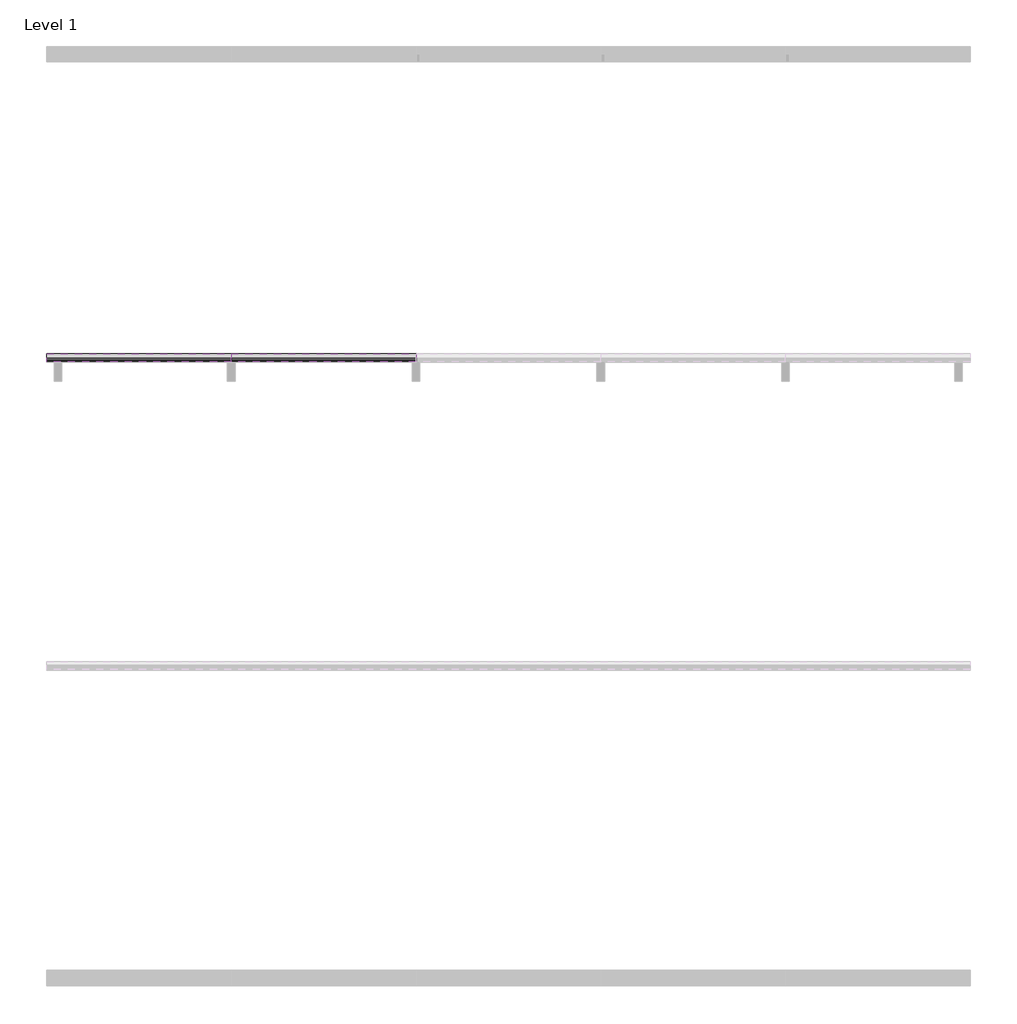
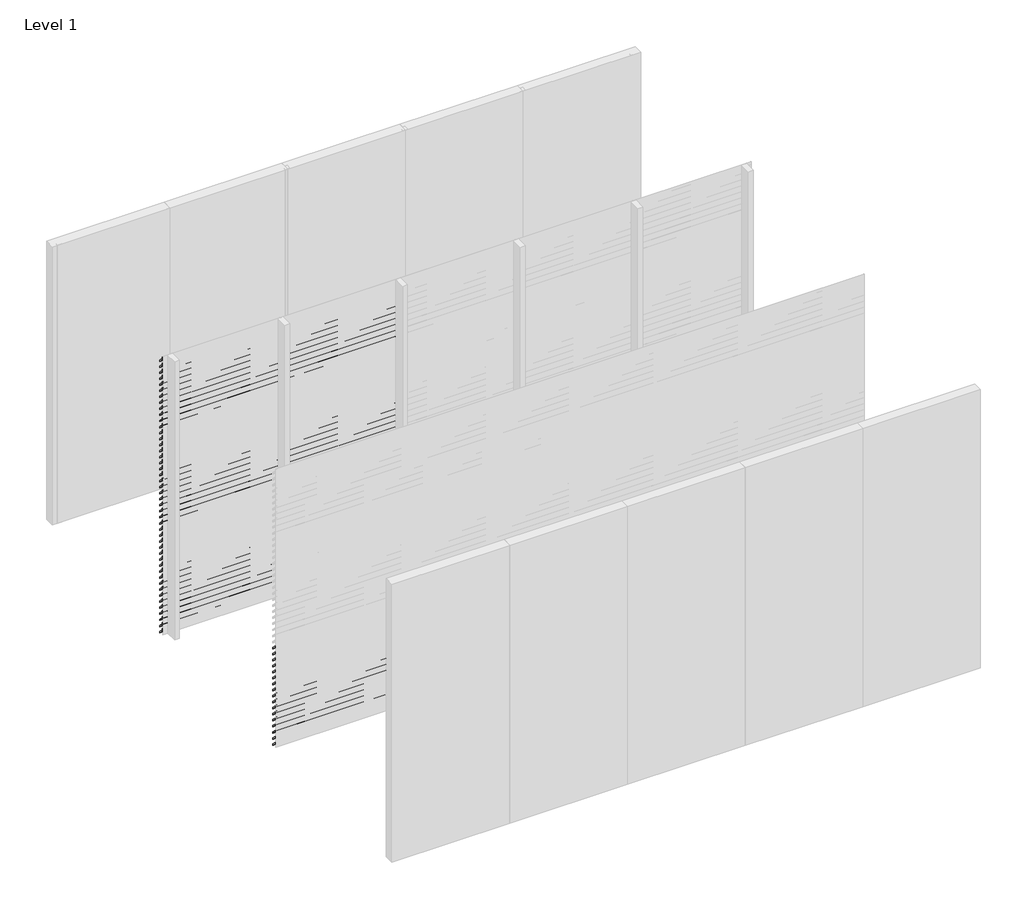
# One storey, part 2 of 12: 96 proxies.
"""IFC4 building model written with IfcOpenShell, lengths in millimetres."""

from ifc_helpers import new_model, si_unit, frame, origin, place, context, project, spatial, polyline, outline, extrude, element, save

model = new_model("IFC4")

# Units and contexts
model_context = context("Model", 3, world=origin())
ifc_project = project(units=[si_unit("LENGTHUNIT", "METRE", prefix="MILLI")], contexts=[model_context])

# Site, building, storey
site = spatial("IfcSite", under=ifc_project)
building = spatial("IfcBuilding", under=site)
storey = spatial("IfcBuildingStorey", under=building, Name="Level 1", Elevation=0.0)

# Proxies
placement = place(None, origin())
element("IfcBuildingElementProxy", 1, Name="Wall Sweeps", at=placement, inside=storey, context=model_context, shape_type="SweptSolid", body=[
    extrude(outline(polyline([(-17995.0, 2990.0), (-17995.0, 2980.7409854), (-17946.0, 2930.0), (-17946.0, 2914.0), (-17997.0, 2966.812046), (-17997.0, 2990.0), (-17995.0, 2990.0)])), frame((1200.0000002, 0.0, 0.0), z_axis=(1.0, 0.0, 0.0), x_axis=(0.0, 1.0, 0.0)), (0.0, 0.0, 1.0), 1199.9999999),
])
element("IfcBuildingElementProxy", 2, Name="Wall Sweeps", at=placement, inside=storey, context=model_context, shape_type="SweptSolid", body=[
    extrude(outline(polyline([(-17995.0, 2925.0), (-17995.0, 2915.7409854), (-17946.0, 2865.0), (-17946.0, 2849.0), (-17997.0, 2901.812046), (-17997.0, 2925.0), (-17995.0, 2925.0)])), frame((1200.0000002, 0.0, 0.0), z_axis=(1.0, 0.0, 0.0), x_axis=(0.0, 1.0, 0.0)), (0.0, 0.0, 1.0), 1199.9999999),
])
element("IfcBuildingElementProxy", 3, Name="Wall Sweeps", at=placement, inside=storey, context=model_context, shape_type="SweptSolid", body=[
    extrude(outline(polyline([(-17995.0, 2860.0), (-17995.0, 2850.7409854), (-17946.0, 2800.0), (-17946.0, 2784.0), (-17997.0, 2836.812046), (-17997.0, 2860.0), (-17995.0, 2860.0)])), frame((1200.0000002, 0.0, 0.0), z_axis=(1.0, 0.0, 0.0), x_axis=(0.0, 1.0, 0.0)), (0.0, 0.0, 1.0), 1199.9999999),
])
element("IfcBuildingElementProxy", 4, Name="Wall Sweeps", at=placement, inside=storey, context=model_context, shape_type="SweptSolid", body=[
    extrude(outline(polyline([(-17995.0, 2795.0), (-17995.0, 2785.7409854), (-17946.0, 2735.0), (-17946.0, 2719.0), (-17997.0, 2771.812046), (-17997.0, 2795.0), (-17995.0, 2795.0)])), frame((1200.0000002, 0.0, 0.0), z_axis=(1.0, 0.0, 0.0), x_axis=(0.0, 1.0, 0.0)), (0.0, 0.0, 1.0), 1199.9999999),
])
element("IfcBuildingElementProxy", 5, Name="Wall Sweeps", at=placement, inside=storey, context=model_context, shape_type="SweptSolid", body=[
    extrude(outline(polyline([(-17995.0, 2730.0), (-17995.0, 2720.7409854), (-17946.0, 2670.0), (-17946.0, 2654.0), (-17997.0, 2706.812046), (-17997.0, 2730.0), (-17995.0, 2730.0)])), frame((1200.0000002, 0.0, 0.0), z_axis=(1.0, 0.0, 0.0), x_axis=(0.0, 1.0, 0.0)), (0.0, 0.0, 1.0), 1199.9999999),
])
element("IfcBuildingElementProxy", 6, Name="Wall Sweeps", at=placement, inside=storey, context=model_context, shape_type="SweptSolid", body=[
    extrude(outline(polyline([(-17995.0, 2665.0), (-17995.0, 2655.7409854), (-17946.0, 2605.0), (-17946.0, 2589.0), (-17997.0, 2641.812046), (-17997.0, 2665.0), (-17995.0, 2665.0)])), frame((1200.0000002, 0.0, 0.0), z_axis=(1.0, 0.0, 0.0), x_axis=(0.0, 1.0, 0.0)), (0.0, 0.0, 1.0), 1199.9999999),
])
element("IfcBuildingElementProxy", 7, Name="Wall Sweeps", at=placement, inside=storey, context=model_context, shape_type="SweptSolid", body=[
    extrude(outline(polyline([(-17995.0, 2600.0), (-17995.0, 2590.7409854), (-17946.0, 2540.0), (-17946.0, 2524.0), (-17997.0, 2576.812046), (-17997.0, 2600.0), (-17995.0, 2600.0)])), frame((1200.0000002, 0.0, 0.0), z_axis=(1.0, 0.0, 0.0), x_axis=(0.0, 1.0, 0.0)), (0.0, 0.0, 1.0), 1199.9999999),
])
element("IfcBuildingElementProxy", 8, Name="Wall Sweeps", at=placement, inside=storey, context=model_context, shape_type="SweptSolid", body=[
    extrude(outline(polyline([(-17995.0, 2535.0), (-17995.0, 2525.7409854), (-17946.0, 2475.0), (-17946.0, 2459.0), (-17997.0, 2511.812046), (-17997.0, 2535.0), (-17995.0, 2535.0)])), frame((1200.0000002, 0.0, 0.0), z_axis=(1.0, 0.0, 0.0), x_axis=(0.0, 1.0, 0.0)), (0.0, 0.0, 1.0), 1199.9999999),
])
element("IfcBuildingElementProxy", 9, Name="Wall Sweeps", at=placement, inside=storey, context=model_context, shape_type="SweptSolid", body=[
    extrude(outline(polyline([(-17995.0, 2470.0), (-17995.0, 2460.7409854), (-17946.0, 2410.0), (-17946.0, 2394.0), (-17997.0, 2446.812046), (-17997.0, 2470.0), (-17995.0, 2470.0)])), frame((1200.0000002, 0.0, 0.0), z_axis=(1.0, 0.0, 0.0), x_axis=(0.0, 1.0, 0.0)), (0.0, 0.0, 1.0), 1199.9999999),
])
element("IfcBuildingElementProxy", 10, Name="Wall Sweeps", at=placement, inside=storey, context=model_context, shape_type="SweptSolid", body=[
    extrude(outline(polyline([(-17995.0, 2405.0), (-17995.0, 2395.7409854), (-17946.0, 2345.0), (-17946.0, 2329.0), (-17997.0, 2381.812046), (-17997.0, 2405.0), (-17995.0, 2405.0)])), frame((1200.0000002, 0.0, 0.0), z_axis=(1.0, 0.0, 0.0), x_axis=(0.0, 1.0, 0.0)), (0.0, 0.0, 1.0), 1199.9999999),
])
element("IfcBuildingElementProxy", 11, Name="Wall Sweeps", at=placement, inside=storey, context=model_context, shape_type="SweptSolid", body=[
    extrude(outline(polyline([(-17995.0, 2340.0), (-17995.0, 2330.7409854), (-17946.0, 2280.0), (-17946.0, 2264.0), (-17997.0, 2316.812046), (-17997.0, 2340.0), (-17995.0, 2340.0)])), frame((1200.0000002, 0.0, 0.0), z_axis=(1.0, 0.0, 0.0), x_axis=(0.0, 1.0, 0.0)), (0.0, 0.0, 1.0), 1199.9999999),
])
element("IfcBuildingElementProxy", 12, Name="Wall Sweeps", at=placement, inside=storey, context=model_context, shape_type="SweptSolid", body=[
    extrude(outline(polyline([(-17995.0, 2275.0), (-17995.0, 2265.7409854), (-17946.0, 2215.0), (-17946.0, 2199.0), (-17997.0, 2251.812046), (-17997.0, 2275.0), (-17995.0, 2275.0)])), frame((1200.0000002, 0.0, 0.0), z_axis=(1.0, 0.0, 0.0), x_axis=(0.0, 1.0, 0.0)), (0.0, 0.0, 1.0), 1199.9999999),
])
element("IfcBuildingElementProxy", 13, Name="Wall Sweeps", at=placement, inside=storey, context=model_context, shape_type="SweptSolid", body=[
    extrude(outline(polyline([(-17995.0, 2210.0), (-17995.0, 2200.7409854), (-17946.0, 2150.0), (-17946.0, 2134.0), (-17997.0, 2186.812046), (-17997.0, 2210.0), (-17995.0, 2210.0)])), frame((1200.0000002, 0.0, 0.0), z_axis=(1.0, 0.0, 0.0), x_axis=(0.0, 1.0, 0.0)), (0.0, 0.0, 1.0), 1199.9999999),
])
element("IfcBuildingElementProxy", 14, Name="Wall Sweeps", at=placement, inside=storey, context=model_context, shape_type="SweptSolid", body=[
    extrude(outline(polyline([(-17995.0, 2145.0), (-17995.0, 2135.7409854), (-17946.0, 2085.0), (-17946.0, 2069.0), (-17997.0, 2121.812046), (-17997.0, 2145.0), (-17995.0, 2145.0)])), frame((1200.0000002, 0.0, 0.0), z_axis=(1.0, 0.0, 0.0), x_axis=(0.0, 1.0, 0.0)), (0.0, 0.0, 1.0), 1199.9999999),
])
element("IfcBuildingElementProxy", 15, Name="Wall Sweeps", at=placement, inside=storey, context=model_context, shape_type="SweptSolid", body=[
    extrude(outline(polyline([(-17995.0, 2080.0), (-17995.0, 2070.7409854), (-17946.0, 2020.0), (-17946.0, 2004.0), (-17997.0, 2056.812046), (-17997.0, 2080.0), (-17995.0, 2080.0)])), frame((1200.0000002, 0.0, 0.0), z_axis=(1.0, 0.0, 0.0), x_axis=(0.0, 1.0, 0.0)), (0.0, 0.0, 1.0), 1199.9999999),
])
element("IfcBuildingElementProxy", 16, Name="Wall Sweeps", at=placement, inside=storey, context=model_context, shape_type="SweptSolid", body=[
    extrude(outline(polyline([(-17995.0, 2015.0), (-17995.0, 2005.7409854), (-17946.0, 1955.0), (-17946.0, 1939.0), (-17997.0, 1991.812046), (-17997.0, 2015.0), (-17995.0, 2015.0)])), frame((1200.0000002, 0.0, 0.0), z_axis=(1.0, 0.0, 0.0), x_axis=(0.0, 1.0, 0.0)), (0.0, 0.0, 1.0), 1199.9999999),
])
element("IfcBuildingElementProxy", 17, Name="Wall Sweeps", at=placement, inside=storey, context=model_context, shape_type="SweptSolid", body=[
    extrude(outline(polyline([(-17995.0, 1950.0), (-17995.0, 1940.7409854), (-17946.0, 1890.0), (-17946.0, 1874.0), (-17997.0, 1926.812046), (-17997.0, 1950.0), (-17995.0, 1950.0)])), frame((1200.0000002, 0.0, 0.0), z_axis=(1.0, 0.0, 0.0), x_axis=(0.0, 1.0, 0.0)), (0.0, 0.0, 1.0), 1199.9999999),
])
element("IfcBuildingElementProxy", 18, Name="Wall Sweeps", at=placement, inside=storey, context=model_context, shape_type="SweptSolid", body=[
    extrude(outline(polyline([(-17995.0, 1885.0), (-17995.0, 1875.7409854), (-17946.0, 1825.0), (-17946.0, 1809.0), (-17997.0, 1861.812046), (-17997.0, 1885.0), (-17995.0, 1885.0)])), frame((1200.0000002, 0.0, 0.0), z_axis=(1.0, 0.0, 0.0), x_axis=(0.0, 1.0, 0.0)), (0.0, 0.0, 1.0), 1199.9999999),
])
element("IfcBuildingElementProxy", 19, Name="Wall Sweeps", at=placement, inside=storey, context=model_context, shape_type="SweptSolid", body=[
    extrude(outline(polyline([(-17995.0, 1820.0), (-17995.0, 1810.7409854), (-17946.0, 1760.0), (-17946.0, 1744.0), (-17997.0, 1796.812046), (-17997.0, 1820.0), (-17995.0, 1820.0)])), frame((1200.0000002, 0.0, 0.0), z_axis=(1.0, 0.0, 0.0), x_axis=(0.0, 1.0, 0.0)), (0.0, 0.0, 1.0), 1199.9999999),
])
element("IfcBuildingElementProxy", 20, Name="Wall Sweeps", at=placement, inside=storey, context=model_context, shape_type="SweptSolid", body=[
    extrude(outline(polyline([(-17995.0, 1755.0), (-17995.0, 1745.7409854), (-17946.0, 1695.0), (-17946.0, 1679.0), (-17997.0, 1731.812046), (-17997.0, 1755.0), (-17995.0, 1755.0)])), frame((1200.0000002, 0.0, 0.0), z_axis=(1.0, 0.0, 0.0), x_axis=(0.0, 1.0, 0.0)), (0.0, 0.0, 1.0), 1199.9999999),
])
element("IfcBuildingElementProxy", 21, Name="Wall Sweeps", at=placement, inside=storey, context=model_context, shape_type="SweptSolid", body=[
    extrude(outline(polyline([(-17995.0, 1690.0), (-17995.0, 1680.7409854), (-17946.0, 1630.0), (-17946.0, 1614.0), (-17997.0, 1666.812046), (-17997.0, 1690.0), (-17995.0, 1690.0)])), frame((1200.0000002, 0.0, 0.0), z_axis=(1.0, 0.0, 0.0), x_axis=(0.0, 1.0, 0.0)), (0.0, 0.0, 1.0), 1199.9999999),
])
element("IfcBuildingElementProxy", 22, Name="Wall Sweeps", at=placement, inside=storey, context=model_context, shape_type="SweptSolid", body=[
    extrude(outline(polyline([(-17995.0, 1625.0), (-17995.0, 1615.7409854), (-17946.0, 1565.0), (-17946.0, 1549.0), (-17997.0, 1601.812046), (-17997.0, 1625.0), (-17995.0, 1625.0)])), frame((1200.0000002, 0.0, 0.0), z_axis=(1.0, 0.0, 0.0), x_axis=(0.0, 1.0, 0.0)), (0.0, 0.0, 1.0), 1199.9999999),
])
element("IfcBuildingElementProxy", 23, Name="Wall Sweeps", at=placement, inside=storey, context=model_context, shape_type="SweptSolid", body=[
    extrude(outline(polyline([(-17995.0, 1560.0), (-17995.0, 1550.7409854), (-17946.0, 1500.0), (-17946.0, 1484.0), (-17997.0, 1536.812046), (-17997.0, 1560.0), (-17995.0, 1560.0)])), frame((1200.0000002, 0.0, 0.0), z_axis=(1.0, 0.0, 0.0), x_axis=(0.0, 1.0, 0.0)), (0.0, 0.0, 1.0), 1199.9999999),
])
element("IfcBuildingElementProxy", 24, Name="Wall Sweeps", at=placement, inside=storey, context=model_context, shape_type="SweptSolid", body=[
    extrude(outline(polyline([(-17995.0, 1495.0), (-17995.0, 1485.7409854), (-17946.0, 1435.0), (-17946.0, 1419.0), (-17997.0, 1471.812046), (-17997.0, 1495.0), (-17995.0, 1495.0)])), frame((1200.0000002, 0.0, 0.0), z_axis=(1.0, 0.0, 0.0), x_axis=(0.0, 1.0, 0.0)), (0.0, 0.0, 1.0), 1199.9999999),
])
element("IfcBuildingElementProxy", 25, Name="Wall Sweeps", at=placement, inside=storey, context=model_context, shape_type="SweptSolid", body=[
    extrude(outline(polyline([(-17995.0, 1430.0), (-17995.0, 1420.7409854), (-17946.0, 1370.0), (-17946.0, 1354.0), (-17997.0, 1406.812046), (-17997.0, 1430.0), (-17995.0, 1430.0)])), frame((1200.0000002, 0.0, 0.0), z_axis=(1.0, 0.0, 0.0), x_axis=(0.0, 1.0, 0.0)), (0.0, 0.0, 1.0), 1199.9999999),
])
element("IfcBuildingElementProxy", 26, Name="Wall Sweeps", at=placement, inside=storey, context=model_context, shape_type="SweptSolid", body=[
    extrude(outline(polyline([(-17995.0, 1365.0), (-17995.0, 1355.7409854), (-17946.0, 1305.0), (-17946.0, 1289.0), (-17997.0, 1341.812046), (-17997.0, 1365.0), (-17995.0, 1365.0)])), frame((1200.0000002, 0.0, 0.0), z_axis=(1.0, 0.0, 0.0), x_axis=(0.0, 1.0, 0.0)), (0.0, 0.0, 1.0), 1199.9999999),
])
element("IfcBuildingElementProxy", 27, Name="Wall Sweeps", at=placement, inside=storey, context=model_context, shape_type="SweptSolid", body=[
    extrude(outline(polyline([(-17995.0, 1300.0), (-17995.0, 1290.7409854), (-17946.0, 1240.0), (-17946.0, 1224.0), (-17997.0, 1276.812046), (-17997.0, 1300.0), (-17995.0, 1300.0)])), frame((1200.0000002, 0.0, 0.0), z_axis=(1.0, 0.0, 0.0), x_axis=(0.0, 1.0, 0.0)), (0.0, 0.0, 1.0), 1199.9999999),
])
element("IfcBuildingElementProxy", 28, Name="Wall Sweeps", at=placement, inside=storey, context=model_context, shape_type="SweptSolid", body=[
    extrude(outline(polyline([(-17995.0, 1235.0), (-17995.0, 1225.7409854), (-17946.0, 1175.0), (-17946.0, 1159.0), (-17997.0, 1211.812046), (-17997.0, 1235.0), (-17995.0, 1235.0)])), frame((1200.0000002, 0.0, 0.0), z_axis=(1.0, 0.0, 0.0), x_axis=(0.0, 1.0, 0.0)), (0.0, 0.0, 1.0), 1199.9999999),
])
element("IfcBuildingElementProxy", 29, Name="Wall Sweeps", at=placement, inside=storey, context=model_context, shape_type="SweptSolid", body=[
    extrude(outline(polyline([(-17995.0, 1170.0), (-17995.0, 1160.7409854), (-17946.0, 1110.0), (-17946.0, 1094.0), (-17997.0, 1146.812046), (-17997.0, 1170.0), (-17995.0, 1170.0)])), frame((1200.0000002, 0.0, 0.0), z_axis=(1.0, 0.0, 0.0), x_axis=(0.0, 1.0, 0.0)), (0.0, 0.0, 1.0), 1199.9999999),
])
element("IfcBuildingElementProxy", 30, Name="Wall Sweeps", at=placement, inside=storey, context=model_context, shape_type="SweptSolid", body=[
    extrude(outline(polyline([(-17995.0, 1105.0), (-17995.0, 1095.7409854), (-17946.0, 1045.0), (-17946.0, 1029.0), (-17997.0, 1081.812046), (-17997.0, 1105.0), (-17995.0, 1105.0)])), frame((1200.0000002, 0.0, 0.0), z_axis=(1.0, 0.0, 0.0), x_axis=(0.0, 1.0, 0.0)), (0.0, 0.0, 1.0), 1199.9999999),
])
element("IfcBuildingElementProxy", 31, Name="Wall Sweeps", at=placement, inside=storey, context=model_context, shape_type="SweptSolid", body=[
    extrude(outline(polyline([(-17995.0, 1040.0), (-17995.0, 1030.7409854), (-17946.0, 980.0), (-17946.0, 964.0), (-17997.0, 1016.812046), (-17997.0, 1040.0), (-17995.0, 1040.0)])), frame((1200.0000002, 0.0, 0.0), z_axis=(1.0, 0.0, 0.0), x_axis=(0.0, 1.0, 0.0)), (0.0, 0.0, 1.0), 1199.9999999),
])
element("IfcBuildingElementProxy", 32, Name="Wall Sweeps", at=placement, inside=storey, context=model_context, shape_type="SweptSolid", body=[
    extrude(outline(polyline([(-17995.0, 975.0), (-17995.0, 965.7409854), (-17946.0, 915.0), (-17946.0, 899.0), (-17997.0, 951.812046), (-17997.0, 975.0), (-17995.0, 975.0)])), frame((1200.0000002, 0.0, 0.0), z_axis=(1.0, 0.0, 0.0), x_axis=(0.0, 1.0, 0.0)), (0.0, 0.0, 1.0), 1199.9999999),
])
element("IfcBuildingElementProxy", 33, Name="Wall Sweeps", at=placement, inside=storey, context=model_context, shape_type="SweptSolid", body=[
    extrude(outline(polyline([(-17995.0, 910.0), (-17995.0, 900.7409854), (-17946.0, 850.0), (-17946.0, 834.0), (-17997.0, 886.812046), (-17997.0, 910.0), (-17995.0, 910.0)])), frame((1200.0000002, 0.0, 0.0), z_axis=(1.0, 0.0, 0.0), x_axis=(0.0, 1.0, 0.0)), (0.0, 0.0, 1.0), 1199.9999999),
])
element("IfcBuildingElementProxy", 34, Name="Wall Sweeps", at=placement, inside=storey, context=model_context, shape_type="SweptSolid", body=[
    extrude(outline(polyline([(-17995.0, 2990.0), (-17995.0, 2980.7409854), (-17946.0, 2930.0), (-17946.0, 2914.0), (-17997.0, 2966.812046), (-17997.0, 2990.0), (-17995.0, 2990.0)])), frame((0.0, 0.0, 0.0), z_axis=(1.0, 0.0, 0.0), x_axis=(0.0, 1.0, 0.0)), (0.0, 0.0, 1.0), 1200.0000002),
])
element("IfcBuildingElementProxy", 35, Name="Wall Sweeps", at=placement, inside=storey, context=model_context, shape_type="SweptSolid", body=[
    extrude(outline(polyline([(-17995.0, 2925.0), (-17995.0, 2915.7409854), (-17946.0, 2865.0), (-17946.0, 2849.0), (-17997.0, 2901.812046), (-17997.0, 2925.0), (-17995.0, 2925.0)])), frame((0.0, 0.0, 0.0), z_axis=(1.0, 0.0, 0.0), x_axis=(0.0, 1.0, 0.0)), (0.0, 0.0, 1.0), 1200.0000002),
])
element("IfcBuildingElementProxy", 36, Name="Wall Sweeps", at=placement, inside=storey, context=model_context, shape_type="SweptSolid", body=[
    extrude(outline(polyline([(-17995.0, 2860.0), (-17995.0, 2850.7409854), (-17946.0, 2800.0), (-17946.0, 2784.0), (-17997.0, 2836.812046), (-17997.0, 2860.0), (-17995.0, 2860.0)])), frame((0.0, 0.0, 0.0), z_axis=(1.0, 0.0, 0.0), x_axis=(0.0, 1.0, 0.0)), (0.0, 0.0, 1.0), 1200.0000002),
])
element("IfcBuildingElementProxy", 37, Name="Wall Sweeps", at=placement, inside=storey, context=model_context, shape_type="SweptSolid", body=[
    extrude(outline(polyline([(-17995.0, 2795.0), (-17995.0, 2785.7409854), (-17946.0, 2735.0), (-17946.0, 2719.0), (-17997.0, 2771.812046), (-17997.0, 2795.0), (-17995.0, 2795.0)])), frame((0.0, 0.0, 0.0), z_axis=(1.0, 0.0, 0.0), x_axis=(0.0, 1.0, 0.0)), (0.0, 0.0, 1.0), 1200.0000002),
])
element("IfcBuildingElementProxy", 38, Name="Wall Sweeps", at=placement, inside=storey, context=model_context, shape_type="SweptSolid", body=[
    extrude(outline(polyline([(-17995.0, 2730.0), (-17995.0, 2720.7409854), (-17946.0, 2670.0), (-17946.0, 2654.0), (-17997.0, 2706.812046), (-17997.0, 2730.0), (-17995.0, 2730.0)])), frame((0.0, 0.0, 0.0), z_axis=(1.0, 0.0, 0.0), x_axis=(0.0, 1.0, 0.0)), (0.0, 0.0, 1.0), 1200.0000002),
])
element("IfcBuildingElementProxy", 39, Name="Wall Sweeps", at=placement, inside=storey, context=model_context, shape_type="SweptSolid", body=[
    extrude(outline(polyline([(-17995.0, 2665.0), (-17995.0, 2655.7409854), (-17946.0, 2605.0), (-17946.0, 2589.0), (-17997.0, 2641.812046), (-17997.0, 2665.0), (-17995.0, 2665.0)])), frame((0.0, 0.0, 0.0), z_axis=(1.0, 0.0, 0.0), x_axis=(0.0, 1.0, 0.0)), (0.0, 0.0, 1.0), 1200.0000002),
])
element("IfcBuildingElementProxy", 40, Name="Wall Sweeps", at=placement, inside=storey, context=model_context, shape_type="SweptSolid", body=[
    extrude(outline(polyline([(-17995.0, 2600.0), (-17995.0, 2590.7409854), (-17946.0, 2540.0), (-17946.0, 2524.0), (-17997.0, 2576.812046), (-17997.0, 2600.0), (-17995.0, 2600.0)])), frame((0.0, 0.0, 0.0), z_axis=(1.0, 0.0, 0.0), x_axis=(0.0, 1.0, 0.0)), (0.0, 0.0, 1.0), 1200.0000002),
])
element("IfcBuildingElementProxy", 41, Name="Wall Sweeps", at=placement, inside=storey, context=model_context, shape_type="SweptSolid", body=[
    extrude(outline(polyline([(-17995.0, 2535.0), (-17995.0, 2525.7409854), (-17946.0, 2475.0), (-17946.0, 2459.0), (-17997.0, 2511.812046), (-17997.0, 2535.0), (-17995.0, 2535.0)])), frame((0.0, 0.0, 0.0), z_axis=(1.0, 0.0, 0.0), x_axis=(0.0, 1.0, 0.0)), (0.0, 0.0, 1.0), 1200.0000002),
])
element("IfcBuildingElementProxy", 42, Name="Wall Sweeps", at=placement, inside=storey, context=model_context, shape_type="SweptSolid", body=[
    extrude(outline(polyline([(-17995.0, 2470.0), (-17995.0, 2460.7409854), (-17946.0, 2410.0), (-17946.0, 2394.0), (-17997.0, 2446.812046), (-17997.0, 2470.0), (-17995.0, 2470.0)])), frame((0.0, 0.0, 0.0), z_axis=(1.0, 0.0, 0.0), x_axis=(0.0, 1.0, 0.0)), (0.0, 0.0, 1.0), 1200.0000002),
])
element("IfcBuildingElementProxy", 43, Name="Wall Sweeps", at=placement, inside=storey, context=model_context, shape_type="SweptSolid", body=[
    extrude(outline(polyline([(-17995.0, 2405.0), (-17995.0, 2395.7409854), (-17946.0, 2345.0), (-17946.0, 2329.0), (-17997.0, 2381.812046), (-17997.0, 2405.0), (-17995.0, 2405.0)])), frame((0.0, 0.0, 0.0), z_axis=(1.0, 0.0, 0.0), x_axis=(0.0, 1.0, 0.0)), (0.0, 0.0, 1.0), 1200.0000002),
])
element("IfcBuildingElementProxy", 44, Name="Wall Sweeps", at=placement, inside=storey, context=model_context, shape_type="SweptSolid", body=[
    extrude(outline(polyline([(-17995.0, 2340.0), (-17995.0, 2330.7409854), (-17946.0, 2280.0), (-17946.0, 2264.0), (-17997.0, 2316.812046), (-17997.0, 2340.0), (-17995.0, 2340.0)])), frame((0.0, 0.0, 0.0), z_axis=(1.0, 0.0, 0.0), x_axis=(0.0, 1.0, 0.0)), (0.0, 0.0, 1.0), 1200.0000002),
])
element("IfcBuildingElementProxy", 45, Name="Wall Sweeps", at=placement, inside=storey, context=model_context, shape_type="SweptSolid", body=[
    extrude(outline(polyline([(-17995.0, 2275.0), (-17995.0, 2265.7409854), (-17946.0, 2215.0), (-17946.0, 2199.0), (-17997.0, 2251.812046), (-17997.0, 2275.0), (-17995.0, 2275.0)])), frame((0.0, 0.0, 0.0), z_axis=(1.0, 0.0, 0.0), x_axis=(0.0, 1.0, 0.0)), (0.0, 0.0, 1.0), 1200.0000002),
])
element("IfcBuildingElementProxy", 46, Name="Wall Sweeps", at=placement, inside=storey, context=model_context, shape_type="SweptSolid", body=[
    extrude(outline(polyline([(-17995.0, 2210.0), (-17995.0, 2200.7409854), (-17946.0, 2150.0), (-17946.0, 2134.0), (-17997.0, 2186.812046), (-17997.0, 2210.0), (-17995.0, 2210.0)])), frame((0.0, 0.0, 0.0), z_axis=(1.0, 0.0, 0.0), x_axis=(0.0, 1.0, 0.0)), (0.0, 0.0, 1.0), 1200.0000002),
])
element("IfcBuildingElementProxy", 47, Name="Wall Sweeps", at=placement, inside=storey, context=model_context, shape_type="SweptSolid", body=[
    extrude(outline(polyline([(-17995.0, 2145.0), (-17995.0, 2135.7409854), (-17946.0, 2085.0), (-17946.0, 2069.0), (-17997.0, 2121.812046), (-17997.0, 2145.0), (-17995.0, 2145.0)])), frame((0.0, 0.0, 0.0), z_axis=(1.0, 0.0, 0.0), x_axis=(0.0, 1.0, 0.0)), (0.0, 0.0, 1.0), 1200.0000002),
])
element("IfcBuildingElementProxy", 48, Name="Wall Sweeps", at=placement, inside=storey, context=model_context, shape_type="SweptSolid", body=[
    extrude(outline(polyline([(-17995.0, 2080.0), (-17995.0, 2070.7409854), (-17946.0, 2020.0), (-17946.0, 2004.0), (-17997.0, 2056.812046), (-17997.0, 2080.0), (-17995.0, 2080.0)])), frame((0.0, 0.0, 0.0), z_axis=(1.0, 0.0, 0.0), x_axis=(0.0, 1.0, 0.0)), (0.0, 0.0, 1.0), 1200.0000002),
])
element("IfcBuildingElementProxy", 49, Name="Wall Sweeps", at=placement, inside=storey, context=model_context, shape_type="SweptSolid", body=[
    extrude(outline(polyline([(-17995.0, 2015.0), (-17995.0, 2005.7409854), (-17946.0, 1955.0), (-17946.0, 1939.0), (-17997.0, 1991.812046), (-17997.0, 2015.0), (-17995.0, 2015.0)])), frame((0.0, 0.0, 0.0), z_axis=(1.0, 0.0, 0.0), x_axis=(0.0, 1.0, 0.0)), (0.0, 0.0, 1.0), 1200.0000002),
])
element("IfcBuildingElementProxy", 50, Name="Wall Sweeps", at=placement, inside=storey, context=model_context, shape_type="SweptSolid", body=[
    extrude(outline(polyline([(-17995.0, 1950.0), (-17995.0, 1940.7409854), (-17946.0, 1890.0), (-17946.0, 1874.0), (-17997.0, 1926.812046), (-17997.0, 1950.0), (-17995.0, 1950.0)])), frame((0.0, 0.0, 0.0), z_axis=(1.0, 0.0, 0.0), x_axis=(0.0, 1.0, 0.0)), (0.0, 0.0, 1.0), 1200.0000002),
])
element("IfcBuildingElementProxy", 51, Name="Wall Sweeps", at=placement, inside=storey, context=model_context, shape_type="SweptSolid", body=[
    extrude(outline(polyline([(-17995.0, 1885.0), (-17995.0, 1875.7409854), (-17946.0, 1825.0), (-17946.0, 1809.0), (-17997.0, 1861.812046), (-17997.0, 1885.0), (-17995.0, 1885.0)])), frame((0.0, 0.0, 0.0), z_axis=(1.0, 0.0, 0.0), x_axis=(0.0, 1.0, 0.0)), (0.0, 0.0, 1.0), 1200.0000002),
])
element("IfcBuildingElementProxy", 52, Name="Wall Sweeps", at=placement, inside=storey, context=model_context, shape_type="SweptSolid", body=[
    extrude(outline(polyline([(-17995.0, 1820.0), (-17995.0, 1810.7409854), (-17946.0, 1760.0), (-17946.0, 1744.0), (-17997.0, 1796.812046), (-17997.0, 1820.0), (-17995.0, 1820.0)])), frame((0.0, 0.0, 0.0), z_axis=(1.0, 0.0, 0.0), x_axis=(0.0, 1.0, 0.0)), (0.0, 0.0, 1.0), 1200.0000002),
])
element("IfcBuildingElementProxy", 53, Name="Wall Sweeps", at=placement, inside=storey, context=model_context, shape_type="SweptSolid", body=[
    extrude(outline(polyline([(-17995.0, 1755.0), (-17995.0, 1745.7409854), (-17946.0, 1695.0), (-17946.0, 1679.0), (-17997.0, 1731.812046), (-17997.0, 1755.0), (-17995.0, 1755.0)])), frame((0.0, 0.0, 0.0), z_axis=(1.0, 0.0, 0.0), x_axis=(0.0, 1.0, 0.0)), (0.0, 0.0, 1.0), 1200.0000002),
])
element("IfcBuildingElementProxy", 54, Name="Wall Sweeps", at=placement, inside=storey, context=model_context, shape_type="SweptSolid", body=[
    extrude(outline(polyline([(-17995.0, 1690.0), (-17995.0, 1680.7409854), (-17946.0, 1630.0), (-17946.0, 1614.0), (-17997.0, 1666.812046), (-17997.0, 1690.0), (-17995.0, 1690.0)])), frame((0.0, 0.0, 0.0), z_axis=(1.0, 0.0, 0.0), x_axis=(0.0, 1.0, 0.0)), (0.0, 0.0, 1.0), 1200.0000002),
])
element("IfcBuildingElementProxy", 55, Name="Wall Sweeps", at=placement, inside=storey, context=model_context, shape_type="SweptSolid", body=[
    extrude(outline(polyline([(-17995.0, 1625.0), (-17995.0, 1615.7409854), (-17946.0, 1565.0), (-17946.0, 1549.0), (-17997.0, 1601.812046), (-17997.0, 1625.0), (-17995.0, 1625.0)])), frame((0.0, 0.0, 0.0), z_axis=(1.0, 0.0, 0.0), x_axis=(0.0, 1.0, 0.0)), (0.0, 0.0, 1.0), 1200.0000002),
])
element("IfcBuildingElementProxy", 56, Name="Wall Sweeps", at=placement, inside=storey, context=model_context, shape_type="SweptSolid", body=[
    extrude(outline(polyline([(-17995.0, 1560.0), (-17995.0, 1550.7409854), (-17946.0, 1500.0), (-17946.0, 1484.0), (-17997.0, 1536.812046), (-17997.0, 1560.0), (-17995.0, 1560.0)])), frame((0.0, 0.0, 0.0), z_axis=(1.0, 0.0, 0.0), x_axis=(0.0, 1.0, 0.0)), (0.0, 0.0, 1.0), 1200.0000002),
])
element("IfcBuildingElementProxy", 57, Name="Wall Sweeps", at=placement, inside=storey, context=model_context, shape_type="SweptSolid", body=[
    extrude(outline(polyline([(-17995.0, 1495.0), (-17995.0, 1485.7409854), (-17946.0, 1435.0), (-17946.0, 1419.0), (-17997.0, 1471.812046), (-17997.0, 1495.0), (-17995.0, 1495.0)])), frame((0.0, 0.0, 0.0), z_axis=(1.0, 0.0, 0.0), x_axis=(0.0, 1.0, 0.0)), (0.0, 0.0, 1.0), 1200.0000002),
])
element("IfcBuildingElementProxy", 58, Name="Wall Sweeps", at=placement, inside=storey, context=model_context, shape_type="SweptSolid", body=[
    extrude(outline(polyline([(-17995.0, 1430.0), (-17995.0, 1420.7409854), (-17946.0, 1370.0), (-17946.0, 1354.0), (-17997.0, 1406.812046), (-17997.0, 1430.0), (-17995.0, 1430.0)])), frame((0.0, 0.0, 0.0), z_axis=(1.0, 0.0, 0.0), x_axis=(0.0, 1.0, 0.0)), (0.0, 0.0, 1.0), 1200.0000002),
])
element("IfcBuildingElementProxy", 59, Name="Wall Sweeps", at=placement, inside=storey, context=model_context, shape_type="SweptSolid", body=[
    extrude(outline(polyline([(-17995.0, 1365.0), (-17995.0, 1355.7409854), (-17946.0, 1305.0), (-17946.0, 1289.0), (-17997.0, 1341.812046), (-17997.0, 1365.0), (-17995.0, 1365.0)])), frame((0.0, 0.0, 0.0), z_axis=(1.0, 0.0, 0.0), x_axis=(0.0, 1.0, 0.0)), (0.0, 0.0, 1.0), 1200.0000002),
])
element("IfcBuildingElementProxy", 60, Name="Wall Sweeps", at=placement, inside=storey, context=model_context, shape_type="SweptSolid", body=[
    extrude(outline(polyline([(-17995.0, 1300.0), (-17995.0, 1290.7409854), (-17946.0, 1240.0), (-17946.0, 1224.0), (-17997.0, 1276.812046), (-17997.0, 1300.0), (-17995.0, 1300.0)])), frame((0.0, 0.0, 0.0), z_axis=(1.0, 0.0, 0.0), x_axis=(0.0, 1.0, 0.0)), (0.0, 0.0, 1.0), 1200.0000002),
])
element("IfcBuildingElementProxy", 61, Name="Wall Sweeps", at=placement, inside=storey, context=model_context, shape_type="SweptSolid", body=[
    extrude(outline(polyline([(-17995.0, 1235.0), (-17995.0, 1225.7409854), (-17946.0, 1175.0), (-17946.0, 1159.0), (-17997.0, 1211.812046), (-17997.0, 1235.0), (-17995.0, 1235.0)])), frame((0.0, 0.0, 0.0), z_axis=(1.0, 0.0, 0.0), x_axis=(0.0, 1.0, 0.0)), (0.0, 0.0, 1.0), 1200.0000002),
])
element("IfcBuildingElementProxy", 62, Name="Wall Sweeps", at=placement, inside=storey, context=model_context, shape_type="SweptSolid", body=[
    extrude(outline(polyline([(-17995.0, 1170.0), (-17995.0, 1160.7409854), (-17946.0, 1110.0), (-17946.0, 1094.0), (-17997.0, 1146.812046), (-17997.0, 1170.0), (-17995.0, 1170.0)])), frame((0.0, 0.0, 0.0), z_axis=(1.0, 0.0, 0.0), x_axis=(0.0, 1.0, 0.0)), (0.0, 0.0, 1.0), 1200.0000002),
])
element("IfcBuildingElementProxy", 63, Name="Wall Sweeps", at=placement, inside=storey, context=model_context, shape_type="SweptSolid", body=[
    extrude(outline(polyline([(-17995.0, 1105.0), (-17995.0, 1095.7409854), (-17946.0, 1045.0), (-17946.0, 1029.0), (-17997.0, 1081.812046), (-17997.0, 1105.0), (-17995.0, 1105.0)])), frame((0.0, 0.0, 0.0), z_axis=(1.0, 0.0, 0.0), x_axis=(0.0, 1.0, 0.0)), (0.0, 0.0, 1.0), 1200.0000002),
])
element("IfcBuildingElementProxy", 64, Name="Wall Sweeps", at=placement, inside=storey, context=model_context, shape_type="SweptSolid", body=[
    extrude(outline(polyline([(-17995.0, 1040.0), (-17995.0, 1030.7409854), (-17946.0, 980.0), (-17946.0, 964.0), (-17997.0, 1016.812046), (-17997.0, 1040.0), (-17995.0, 1040.0)])), frame((0.0, 0.0, 0.0), z_axis=(1.0, 0.0, 0.0), x_axis=(0.0, 1.0, 0.0)), (0.0, 0.0, 1.0), 1200.0000002),
])
element("IfcBuildingElementProxy", 65, Name="Wall Sweeps", at=placement, inside=storey, context=model_context, shape_type="SweptSolid", body=[
    extrude(outline(polyline([(-17995.0, 975.0), (-17995.0, 965.7409854), (-17946.0, 915.0), (-17946.0, 899.0), (-17997.0, 951.812046), (-17997.0, 975.0), (-17995.0, 975.0)])), frame((0.0, 0.0, 0.0), z_axis=(1.0, 0.0, 0.0), x_axis=(0.0, 1.0, 0.0)), (0.0, 0.0, 1.0), 1200.0000002),
])
element("IfcBuildingElementProxy", 66, Name="Wall Sweeps", at=placement, inside=storey, context=model_context, shape_type="SweptSolid", body=[
    extrude(outline(polyline([(-17995.0, 910.0), (-17995.0, 900.7409854), (-17946.0, 850.0), (-17946.0, 834.0), (-17997.0, 886.812046), (-17997.0, 910.0), (-17995.0, 910.0)])), frame((0.0, 0.0, 0.0), z_axis=(1.0, 0.0, 0.0), x_axis=(0.0, 1.0, 0.0)), (0.0, 0.0, 1.0), 1200.0000002),
])
element("IfcBuildingElementProxy", 67, Name="Wall Sweeps", at=placement, inside=storey, context=model_context, shape_type="SweptSolid", body=[
    extrude(outline(polyline([(-17995.0, 845.0), (-17995.0, 835.7409854), (-17946.0, 785.0), (-17946.0, 769.0), (-17997.0, 821.812046), (-17997.0, 845.0), (-17995.0, 845.0)])), frame((0.0, 0.0, 0.0), z_axis=(1.0, 0.0, 0.0), x_axis=(0.0, 1.0, 0.0)), (0.0, 0.0, 1.0), 1200.0000002),
])
element("IfcBuildingElementProxy", 68, Name="Wall Sweeps", at=placement, inside=storey, context=model_context, shape_type="SweptSolid", body=[
    extrude(outline(polyline([(-17995.0, 780.0), (-17995.0, 770.7409854), (-17946.0, 720.0), (-17946.0, 704.0), (-17997.0, 756.812046), (-17997.0, 780.0), (-17995.0, 780.0)])), frame((0.0, 0.0, 0.0), z_axis=(1.0, 0.0, 0.0), x_axis=(0.0, 1.0, 0.0)), (0.0, 0.0, 1.0), 1200.0000002),
])
element("IfcBuildingElementProxy", 69, Name="Wall Sweeps", at=placement, inside=storey, context=model_context, shape_type="SweptSolid", body=[
    extrude(outline(polyline([(-17995.0, 715.0), (-17995.0, 705.7409854), (-17946.0, 655.0), (-17946.0, 639.0), (-17997.0, 691.812046), (-17997.0, 715.0), (-17995.0, 715.0)])), frame((0.0, 0.0, 0.0), z_axis=(1.0, 0.0, 0.0), x_axis=(0.0, 1.0, 0.0)), (0.0, 0.0, 1.0), 1200.0000002),
])
element("IfcBuildingElementProxy", 70, Name="Wall Sweeps", at=placement, inside=storey, context=model_context, shape_type="SweptSolid", body=[
    extrude(outline(polyline([(-17995.0, 650.0), (-17995.0, 640.7409854), (-17946.0, 590.0), (-17946.0, 574.0), (-17997.0, 626.812046), (-17997.0, 650.0), (-17995.0, 650.0)])), frame((0.0, 0.0, 0.0), z_axis=(1.0, 0.0, 0.0), x_axis=(0.0, 1.0, 0.0)), (0.0, 0.0, 1.0), 1200.0000002),
])
element("IfcBuildingElementProxy", 71, Name="Wall Sweeps", at=placement, inside=storey, context=model_context, shape_type="SweptSolid", body=[
    extrude(outline(polyline([(-17995.0, 585.0), (-17995.0, 575.7409854), (-17946.0, 525.0), (-17946.0, 509.0), (-17997.0, 561.812046), (-17997.0, 585.0), (-17995.0, 585.0)])), frame((0.0, 0.0, 0.0), z_axis=(1.0, 0.0, 0.0), x_axis=(0.0, 1.0, 0.0)), (0.0, 0.0, 1.0), 1200.0000002),
])
element("IfcBuildingElementProxy", 72, Name="Wall Sweeps", at=placement, inside=storey, context=model_context, shape_type="SweptSolid", body=[
    extrude(outline(polyline([(-17995.0, 520.0), (-17995.0, 510.7409854), (-17946.0, 460.0), (-17946.0, 444.0), (-17997.0, 496.812046), (-17997.0, 520.0), (-17995.0, 520.0)])), frame((0.0, 0.0, 0.0), z_axis=(1.0, 0.0, 0.0), x_axis=(0.0, 1.0, 0.0)), (0.0, 0.0, 1.0), 1200.0000002),
])
element("IfcBuildingElementProxy", 73, Name="Wall Sweeps", at=placement, inside=storey, context=model_context, shape_type="SweptSolid", body=[
    extrude(outline(polyline([(-17995.0, 455.0), (-17995.0, 445.7409854), (-17946.0, 395.0), (-17946.0, 379.0), (-17997.0, 431.812046), (-17997.0, 455.0), (-17995.0, 455.0)])), frame((0.0, 0.0, 0.0), z_axis=(1.0, 0.0, 0.0), x_axis=(0.0, 1.0, 0.0)), (0.0, 0.0, 1.0), 1200.0000002),
])
element("IfcBuildingElementProxy", 74, Name="Wall Sweeps", at=placement, inside=storey, context=model_context, shape_type="SweptSolid", body=[
    extrude(outline(polyline([(-17995.0, 390.0), (-17995.0, 380.7409854), (-17946.0, 330.0), (-17946.0, 314.0), (-17997.0, 366.812046), (-17997.0, 390.0), (-17995.0, 390.0)])), frame((0.0, 0.0, 0.0), z_axis=(1.0, 0.0, 0.0), x_axis=(0.0, 1.0, 0.0)), (0.0, 0.0, 1.0), 1200.0000002),
])
element("IfcBuildingElementProxy", 75, Name="Wall Sweeps", at=placement, inside=storey, context=model_context, shape_type="SweptSolid", body=[
    extrude(outline(polyline([(-17995.0, 325.0), (-17995.0, 315.7409854), (-17946.0, 265.0), (-17946.0, 249.0), (-17997.0, 301.812046), (-17997.0, 325.0), (-17995.0, 325.0)])), frame((0.0, 0.0, 0.0), z_axis=(1.0, 0.0, 0.0), x_axis=(0.0, 1.0, 0.0)), (0.0, 0.0, 1.0), 1200.0000002),
])
element("IfcBuildingElementProxy", 76, Name="Wall Sweeps", at=placement, inside=storey, context=model_context, shape_type="SweptSolid", body=[
    extrude(outline(polyline([(-17995.0, 260.0), (-17995.0, 250.7409854), (-17946.0, 200.0), (-17946.0, 184.0), (-17997.0, 236.812046), (-17997.0, 260.0), (-17995.0, 260.0)])), frame((0.0, 0.0, 0.0), z_axis=(1.0, 0.0, 0.0), x_axis=(0.0, 1.0, 0.0)), (0.0, 0.0, 1.0), 1200.0000002),
])
element("IfcBuildingElementProxy", 77, Name="Wall Sweeps", at=placement, inside=storey, context=model_context, shape_type="SweptSolid", body=[
    extrude(outline(polyline([(-17995.0, 195.0), (-17995.0, 185.7409854), (-17946.0, 135.0), (-17946.0, 119.0), (-17997.0, 171.812046), (-17997.0, 195.0), (-17995.0, 195.0)])), frame((0.0, 0.0, 0.0), z_axis=(1.0, 0.0, 0.0), x_axis=(0.0, 1.0, 0.0)), (0.0, 0.0, 1.0), 1200.0000002),
])
element("IfcBuildingElementProxy", 78, Name="Wall Sweeps", at=placement, inside=storey, context=model_context, shape_type="SweptSolid", body=[
    extrude(outline(polyline([(-17995.0, 130.0), (-17995.0, 120.7409854), (-17946.0, 70.0), (-17946.0, 54.0), (-17997.0, 106.812046), (-17997.0, 130.0), (-17995.0, 130.0)])), frame((0.0, 0.0, 0.0), z_axis=(1.0, 0.0, 0.0), x_axis=(0.0, 1.0, 0.0)), (0.0, 0.0, 1.0), 1200.0000002),
])
element("IfcBuildingElementProxy", 79, Name="Wall Sweeps", at=placement, inside=storey, context=model_context, shape_type="SweptSolid", body=[
    extrude(outline(polyline([(-17995.0, 65.0), (-17995.0, 55.7409854), (-17946.0, 5.0), (-17946.0, -11.0), (-17997.0, 41.812046), (-17997.0, 65.0), (-17995.0, 65.0)])), frame((0.0, 0.0, 0.0), z_axis=(1.0, 0.0, 0.0), x_axis=(0.0, 1.0, 0.0)), (0.0, 0.0, 1.0), 1200.0000002),
])
element("IfcBuildingElementProxy", 80, Name="Wall Sweeps", at=placement, inside=storey, context=model_context, shape_type="SweptSolid", body=[
    extrude(outline(polyline([(-19995.0, 1105.0), (-19995.0, 1095.7409854), (-19946.0, 1045.0), (-19946.0, 1029.0), (-19997.0, 1081.812046), (-19997.0, 1105.0), (-19995.0, 1105.0)])), frame((0.0, 0.0, 0.0), z_axis=(1.0, 0.0, 0.0), x_axis=(0.0, 1.0, 0.0)), (0.0, 0.0, 1.0), 6000.0),
])
element("IfcBuildingElementProxy", 81, Name="Wall Sweeps", at=placement, inside=storey, context=model_context, shape_type="SweptSolid", body=[
    extrude(outline(polyline([(-19995.0, 1040.0), (-19995.0, 1030.7409854), (-19946.0, 980.0), (-19946.0, 964.0), (-19997.0, 1016.812046), (-19997.0, 1040.0), (-19995.0, 1040.0)])), frame((0.0, 0.0, 0.0), z_axis=(1.0, 0.0, 0.0), x_axis=(0.0, 1.0, 0.0)), (0.0, 0.0, 1.0), 6000.0),
])
element("IfcBuildingElementProxy", 82, Name="Wall Sweeps", at=placement, inside=storey, context=model_context, shape_type="SweptSolid", body=[
    extrude(outline(polyline([(-19995.0, 975.0), (-19995.0, 965.7409854), (-19946.0, 915.0), (-19946.0, 899.0), (-19997.0, 951.812046), (-19997.0, 975.0), (-19995.0, 975.0)])), frame((0.0, 0.0, 0.0), z_axis=(1.0, 0.0, 0.0), x_axis=(0.0, 1.0, 0.0)), (0.0, 0.0, 1.0), 6000.0),
])
element("IfcBuildingElementProxy", 83, Name="Wall Sweeps", at=placement, inside=storey, context=model_context, shape_type="SweptSolid", body=[
    extrude(outline(polyline([(-19995.0, 910.0), (-19995.0, 900.7409854), (-19946.0, 850.0), (-19946.0, 834.0), (-19997.0, 886.812046), (-19997.0, 910.0), (-19995.0, 910.0)])), frame((0.0, 0.0, 0.0), z_axis=(1.0, 0.0, 0.0), x_axis=(0.0, 1.0, 0.0)), (0.0, 0.0, 1.0), 6000.0),
])
element("IfcBuildingElementProxy", 84, Name="Wall Sweeps", at=placement, inside=storey, context=model_context, shape_type="SweptSolid", body=[
    extrude(outline(polyline([(-19995.0, 845.0), (-19995.0, 835.7409854), (-19946.0, 785.0), (-19946.0, 769.0), (-19997.0, 821.812046), (-19997.0, 845.0), (-19995.0, 845.0)])), frame((0.0, 0.0, 0.0), z_axis=(1.0, 0.0, 0.0), x_axis=(0.0, 1.0, 0.0)), (0.0, 0.0, 1.0), 6000.0),
])
element("IfcBuildingElementProxy", 85, Name="Wall Sweeps", at=placement, inside=storey, context=model_context, shape_type="SweptSolid", body=[
    extrude(outline(polyline([(-19995.0, 780.0), (-19995.0, 770.7409854), (-19946.0, 720.0), (-19946.0, 704.0), (-19997.0, 756.812046), (-19997.0, 780.0), (-19995.0, 780.0)])), frame((0.0, 0.0, 0.0), z_axis=(1.0, 0.0, 0.0), x_axis=(0.0, 1.0, 0.0)), (0.0, 0.0, 1.0), 6000.0),
])
element("IfcBuildingElementProxy", 86, Name="Wall Sweeps", at=placement, inside=storey, context=model_context, shape_type="SweptSolid", body=[
    extrude(outline(polyline([(-19995.0, 715.0), (-19995.0, 705.7409854), (-19946.0, 655.0), (-19946.0, 639.0), (-19997.0, 691.812046), (-19997.0, 715.0), (-19995.0, 715.0)])), frame((0.0, 0.0, 0.0), z_axis=(1.0, 0.0, 0.0), x_axis=(0.0, 1.0, 0.0)), (0.0, 0.0, 1.0), 6000.0),
])
element("IfcBuildingElementProxy", 87, Name="Wall Sweeps", at=placement, inside=storey, context=model_context, shape_type="SweptSolid", body=[
    extrude(outline(polyline([(-19995.0, 650.0), (-19995.0, 640.7409854), (-19946.0, 590.0), (-19946.0, 574.0), (-19997.0, 626.812046), (-19997.0, 650.0), (-19995.0, 650.0)])), frame((0.0, 0.0, 0.0), z_axis=(1.0, 0.0, 0.0), x_axis=(0.0, 1.0, 0.0)), (0.0, 0.0, 1.0), 6000.0),
])
element("IfcBuildingElementProxy", 88, Name="Wall Sweeps", at=placement, inside=storey, context=model_context, shape_type="SweptSolid", body=[
    extrude(outline(polyline([(-19995.0, 585.0), (-19995.0, 575.7409854), (-19946.0, 525.0), (-19946.0, 509.0), (-19997.0, 561.812046), (-19997.0, 585.0), (-19995.0, 585.0)])), frame((0.0, 0.0, 0.0), z_axis=(1.0, 0.0, 0.0), x_axis=(0.0, 1.0, 0.0)), (0.0, 0.0, 1.0), 6000.0),
])
element("IfcBuildingElementProxy", 89, Name="Wall Sweeps", at=placement, inside=storey, context=model_context, shape_type="SweptSolid", body=[
    extrude(outline(polyline([(-19995.0, 520.0), (-19995.0, 510.7409854), (-19946.0, 460.0), (-19946.0, 444.0), (-19997.0, 496.812046), (-19997.0, 520.0), (-19995.0, 520.0)])), frame((0.0, 0.0, 0.0), z_axis=(1.0, 0.0, 0.0), x_axis=(0.0, 1.0, 0.0)), (0.0, 0.0, 1.0), 6000.0),
])
element("IfcBuildingElementProxy", 90, Name="Wall Sweeps", at=placement, inside=storey, context=model_context, shape_type="SweptSolid", body=[
    extrude(outline(polyline([(-19995.0, 455.0), (-19995.0, 445.7409854), (-19946.0, 395.0), (-19946.0, 379.0), (-19997.0, 431.812046), (-19997.0, 455.0), (-19995.0, 455.0)])), frame((0.0, 0.0, 0.0), z_axis=(1.0, 0.0, 0.0), x_axis=(0.0, 1.0, 0.0)), (0.0, 0.0, 1.0), 6000.0),
])
element("IfcBuildingElementProxy", 91, Name="Wall Sweeps", at=placement, inside=storey, context=model_context, shape_type="SweptSolid", body=[
    extrude(outline(polyline([(-19995.0, 390.0), (-19995.0, 380.7409854), (-19946.0, 330.0), (-19946.0, 314.0), (-19997.0, 366.812046), (-19997.0, 390.0), (-19995.0, 390.0)])), frame((0.0, 0.0, 0.0), z_axis=(1.0, 0.0, 0.0), x_axis=(0.0, 1.0, 0.0)), (0.0, 0.0, 1.0), 6000.0),
])
element("IfcBuildingElementProxy", 92, Name="Wall Sweeps", at=placement, inside=storey, context=model_context, shape_type="SweptSolid", body=[
    extrude(outline(polyline([(-19995.0, 325.0), (-19995.0, 315.7409854), (-19946.0, 265.0), (-19946.0, 249.0), (-19997.0, 301.812046), (-19997.0, 325.0), (-19995.0, 325.0)])), frame((0.0, 0.0, 0.0), z_axis=(1.0, 0.0, 0.0), x_axis=(0.0, 1.0, 0.0)), (0.0, 0.0, 1.0), 6000.0),
])
element("IfcBuildingElementProxy", 93, Name="Wall Sweeps", at=placement, inside=storey, context=model_context, shape_type="SweptSolid", body=[
    extrude(outline(polyline([(-19995.0, 260.0), (-19995.0, 250.7409854), (-19946.0, 200.0), (-19946.0, 184.0), (-19997.0, 236.812046), (-19997.0, 260.0), (-19995.0, 260.0)])), frame((0.0, 0.0, 0.0), z_axis=(1.0, 0.0, 0.0), x_axis=(0.0, 1.0, 0.0)), (0.0, 0.0, 1.0), 6000.0),
])
element("IfcBuildingElementProxy", 94, Name="Wall Sweeps", at=placement, inside=storey, context=model_context, shape_type="SweptSolid", body=[
    extrude(outline(polyline([(-19995.0, 195.0), (-19995.0, 185.7409854), (-19946.0, 135.0), (-19946.0, 119.0), (-19997.0, 171.812046), (-19997.0, 195.0), (-19995.0, 195.0)])), frame((0.0, 0.0, 0.0), z_axis=(1.0, 0.0, 0.0), x_axis=(0.0, 1.0, 0.0)), (0.0, 0.0, 1.0), 6000.0),
])
element("IfcBuildingElementProxy", 95, Name="Wall Sweeps", at=placement, inside=storey, context=model_context, shape_type="SweptSolid", body=[
    extrude(outline(polyline([(-19995.0, 130.0), (-19995.0, 120.7409854), (-19946.0, 70.0), (-19946.0, 54.0), (-19997.0, 106.812046), (-19997.0, 130.0), (-19995.0, 130.0)])), frame((0.0, 0.0, 0.0), z_axis=(1.0, 0.0, 0.0), x_axis=(0.0, 1.0, 0.0)), (0.0, 0.0, 1.0), 6000.0),
])
element("IfcBuildingElementProxy", 96, Name="Wall Sweeps", at=placement, inside=storey, context=model_context, shape_type="SweptSolid", body=[
    extrude(outline(polyline([(-19995.0, 65.0), (-19995.0, 55.7409854), (-19946.0, 5.0), (-19946.0, -11.0), (-19997.0, 41.812046), (-19997.0, 65.0), (-19995.0, 65.0)])), frame((0.0, 0.0, 0.0), z_axis=(1.0, 0.0, 0.0), x_axis=(0.0, 1.0, 0.0)), (0.0, 0.0, 1.0), 6000.0),
])

save(model, "model.ifc")
